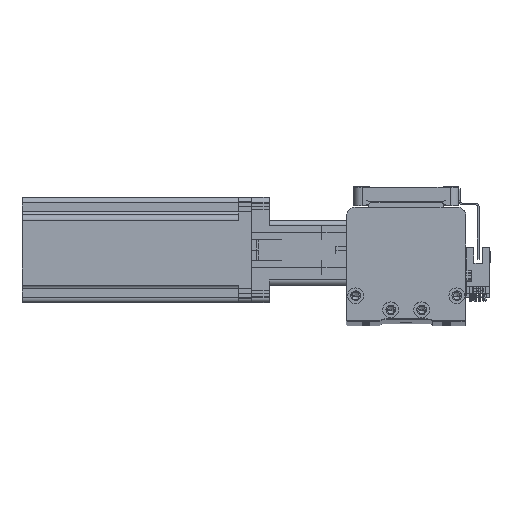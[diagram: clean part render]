
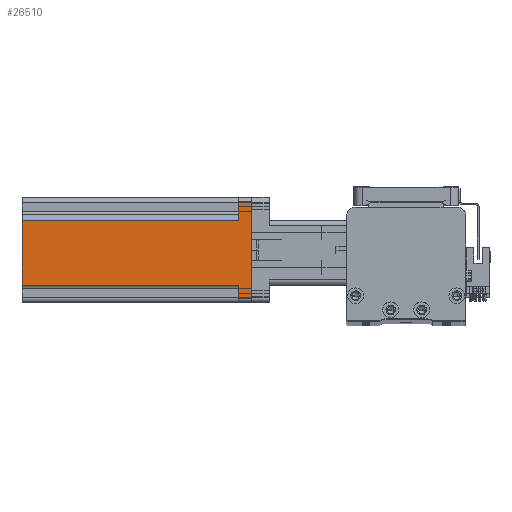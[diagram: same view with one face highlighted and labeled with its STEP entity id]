
A CAD part, top view. The second image highlights one B-rep face of the part: STEP entity #26510.
In plain terms, the highlighted planar face has unit normal (0, 0, 1) as drawn and (-1, 0, 0) by its records, which use the part's own axes.
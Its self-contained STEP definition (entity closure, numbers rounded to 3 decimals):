
#195 = EDGE_LOOP ( 'NONE', ( #36556, #35376, #40325, #28330, #34435, #32656, #38988, #24415 ) ) ;
#1352 = CARTESIAN_POINT ( 'NONE',  ( -30., -27., 130.7 ) ) ;
#1605 = VECTOR ( 'NONE', #2862, 1000. ) ;
#1675 = EDGE_CURVE ( 'NONE', #2430, #17200, #38441, .T. ) ;
#1797 = DIRECTION ( 'NONE',  ( 0., 1., 0. ) ) ;
#2430 = VERTEX_POINT ( 'NONE', #29118 ) ;
#2862 = DIRECTION ( 'NONE',  ( 0., -1., 0. ) ) ;
#4078 = CARTESIAN_POINT ( 'NONE',  ( -30., -17., 130.7 ) ) ;
#4082 = CARTESIAN_POINT ( 'NONE',  ( -30., -27., 0. ) ) ;
#4238 = CARTESIAN_POINT ( 'NONE',  ( -30., -30., 0. ) ) ;
#4267 = VECTOR ( 'NONE', #18293, 1000. ) ;
#4505 = EDGE_CURVE ( 'NONE', #14145, #17200, #19048, .T. ) ;
#6587 = CARTESIAN_POINT ( 'NONE',  ( -30., -30., 130.7 ) ) ;
#6825 = LINE ( 'NONE', #24098, #35373 ) ;
#10871 = DIRECTION ( 'NONE',  ( 0., -1., 0. ) ) ;
#13135 = VERTEX_POINT ( 'NONE', #24968 ) ;
#13928 = CARTESIAN_POINT ( 'NONE',  ( -30., 20., 7.5 ) ) ;
#14145 = VERTEX_POINT ( 'NONE', #20620 ) ;
#14944 = EDGE_CURVE ( 'NONE', #2430, #24096, #18512, .T. ) ;
#15079 = VERTEX_POINT ( 'NONE', #26609 ) ;
#16375 = DIRECTION ( 'NONE',  ( 0., 0., 1. ) ) ;
#16490 = CARTESIAN_POINT ( 'NONE',  ( -30., -30., 130.7 ) ) ;
#17200 = VERTEX_POINT ( 'NONE', #26973 ) ;
#17413 = CARTESIAN_POINT ( 'NONE',  ( -30., 27., 7.5 ) ) ;
#17567 = EDGE_CURVE ( 'NONE', #40559, #15079, #33953, .T. ) ;
#17648 = DIRECTION ( 'NONE',  ( 0., 0., 1. ) ) ;
#18293 = DIRECTION ( 'NONE',  ( 0., 0., -1. ) ) ;
#18512 = LINE ( 'NONE', #33150, #27257 ) ;
#18592 = EDGE_CURVE ( 'NONE', #15079, #45457, #47743, .T. ) ;
#19048 = LINE ( 'NONE', #6587, #1605 ) ;
#19423 = VECTOR ( 'NONE', #17648, 1000. ) ;
#20279 = DIRECTION ( 'NONE',  ( 0., 0., -1. ) ) ;
#20595 = LINE ( 'NONE', #13928, #19423 ) ;
#20620 = CARTESIAN_POINT ( 'NONE',  ( -30., 20., 130.7 ) ) ;
#21170 = AXIS2_PLACEMENT_3D ( 'NONE', #16490, #42560, #20279 ) ;
#22793 = DIRECTION ( 'NONE',  ( 0., -1., 0. ) ) ;
#23723 = FACE_OUTER_BOUND ( 'NONE', #195, .T. ) ;
#23796 = CARTESIAN_POINT ( 'NONE',  ( -30., -27., 7.5 ) ) ;
#24096 = VERTEX_POINT ( 'NONE', #23796 ) ;
#24098 = CARTESIAN_POINT ( 'NONE',  ( -30., 30., 7.5 ) ) ;
#24415 = ORIENTED_EDGE ( 'NONE', *, *, #45133, .T. ) ;
#24968 = CARTESIAN_POINT ( 'NONE',  ( -30., 20., 7.5 ) ) ;
#25941 = EDGE_CURVE ( 'NONE', #13135, #40559, #6825, .T. ) ;
#26510 = ADVANCED_FACE ( 'NONE', ( #23723 ), #46172, .F. ) ;
#26609 = CARTESIAN_POINT ( 'NONE',  ( -30., 27., 0. ) ) ;
#26973 = CARTESIAN_POINT ( 'NONE',  ( -30., -17., 130.7 ) ) ;
#27257 = VECTOR ( 'NONE', #10871, 1000. ) ;
#28330 = ORIENTED_EDGE ( 'NONE', *, *, #34295, .F. ) ;
#29118 = CARTESIAN_POINT ( 'NONE',  ( -30., -17., 7.5 ) ) ;
#29206 = VECTOR ( 'NONE', #31143, 1000. ) ;
#29559 = CARTESIAN_POINT ( 'NONE',  ( -30., 27., 130.7 ) ) ;
#31143 = DIRECTION ( 'NONE',  ( 0., 0., 1. ) ) ;
#32616 = VECTOR ( 'NONE', #16375, 1000. ) ;
#32656 = ORIENTED_EDGE ( 'NONE', *, *, #17567, .T. ) ;
#33150 = CARTESIAN_POINT ( 'NONE',  ( -30., -30., 7.5 ) ) ;
#33953 = LINE ( 'NONE', #29559, #4267 ) ;
#34295 = EDGE_CURVE ( 'NONE', #13135, #14145, #20595, .T. ) ;
#34435 = ORIENTED_EDGE ( 'NONE', *, *, #25941, .T. ) ;
#35373 = VECTOR ( 'NONE', #1797, 1000. ) ;
#35376 = ORIENTED_EDGE ( 'NONE', *, *, #1675, .T. ) ;
#35503 = VECTOR ( 'NONE', #22793, 1000. ) ;
#36556 = ORIENTED_EDGE ( 'NONE', *, *, #14944, .F. ) ;
#38441 = LINE ( 'NONE', #4078, #32616 ) ;
#38988 = ORIENTED_EDGE ( 'NONE', *, *, #18592, .T. ) ;
#40325 = ORIENTED_EDGE ( 'NONE', *, *, #4505, .F. ) ;
#40559 = VERTEX_POINT ( 'NONE', #17413 ) ;
#42560 = DIRECTION ( 'NONE',  ( 1., 0., 0. ) ) ;
#45133 = EDGE_CURVE ( 'NONE', #45457, #24096, #47856, .T. ) ;
#45457 = VERTEX_POINT ( 'NONE', #4082 ) ;
#46172 = PLANE ( 'NONE',  #21170 ) ;
#47743 = LINE ( 'NONE', #4238, #35503 ) ;
#47856 = LINE ( 'NONE', #1352, #29206 ) ;
